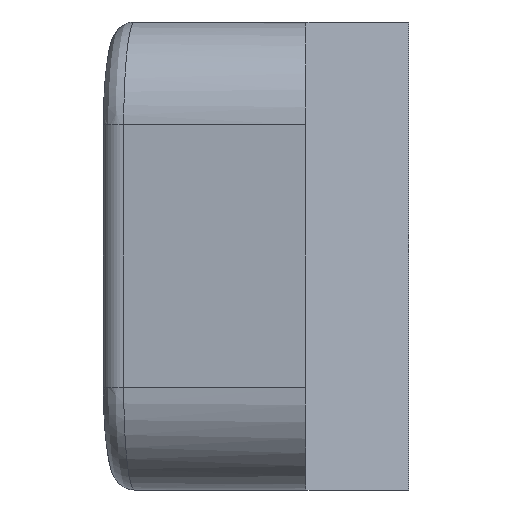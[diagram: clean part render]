
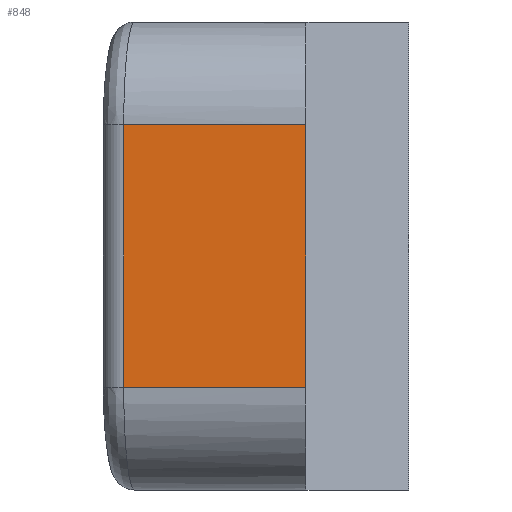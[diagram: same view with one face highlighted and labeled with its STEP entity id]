
A CAD part, left-side view. The second image highlights one B-rep face of the part: STEP entity #848.
In plain terms, the highlighted planar face has unit normal (-1, 0, 0).
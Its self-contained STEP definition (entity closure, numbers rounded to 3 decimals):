
#9 = CARTESIAN_POINT ( 'NONE',  ( 0., 0., 35.5 ) ) ;
#45 = LINE ( 'NONE', #313, #737 ) ;
#61 = DIRECTION ( 'NONE',  ( 0., 0., -1. ) ) ;
#108 = VECTOR ( 'NONE', #801, 1000. ) ;
#147 = ORIENTED_EDGE ( 'NONE', *, *, #582, .T. ) ;
#161 = CARTESIAN_POINT ( 'NONE',  ( 0., 17.72, 35.5 ) ) ;
#313 = CARTESIAN_POINT ( 'NONE',  ( 0., 0., 10. ) ) ;
#402 = EDGE_CURVE ( 'NONE', #861, #1077, #1093, .T. ) ;
#407 = DIRECTION ( 'NONE',  ( 0., -1., 0. ) ) ;
#428 = VECTOR ( 'NONE', #61, 1000. ) ;
#434 = EDGE_LOOP ( 'NONE', ( #1165, #147, #707, #1107 ) ) ;
#438 = FACE_OUTER_BOUND ( 'NONE', #434, .T. ) ;
#517 = LINE ( 'NONE', #873, #428 ) ;
#582 = EDGE_CURVE ( 'NONE', #1077, #885, #517, .T. ) ;
#636 = CARTESIAN_POINT ( 'NONE',  ( 0., 17.72, 10. ) ) ;
#662 = AXIS2_PLACEMENT_3D ( 'NONE', #1150, #706, #968 ) ;
#666 = CARTESIAN_POINT ( 'NONE',  ( 0., 0., 35.5 ) ) ;
#694 = LINE ( 'NONE', #781, #108 ) ;
#706 = DIRECTION ( 'NONE',  ( 1., 0., 0. ) ) ;
#707 = ORIENTED_EDGE ( 'NONE', *, *, #1027, .T. ) ;
#737 = VECTOR ( 'NONE', #407, 1000. ) ;
#781 = CARTESIAN_POINT ( 'NONE',  ( 0., 0., 45.5 ) ) ;
#796 = PLANE ( 'NONE',  #662 ) ;
#801 = DIRECTION ( 'NONE',  ( 0., 0., -1. ) ) ;
#848 = ADVANCED_FACE ( 'NONE', ( #438 ), #796, .F. ) ;
#861 = VERTEX_POINT ( 'NONE', #9 ) ;
#873 = CARTESIAN_POINT ( 'NONE',  ( 0., 17.72, 45.5 ) ) ;
#885 = VERTEX_POINT ( 'NONE', #636 ) ;
#887 = VECTOR ( 'NONE', #1108, 1000. ) ;
#893 = VERTEX_POINT ( 'NONE', #1102 ) ;
#968 = DIRECTION ( 'NONE',  ( 0., 1., 0. ) ) ;
#1027 = EDGE_CURVE ( 'NONE', #885, #893, #45, .T. ) ;
#1042 = EDGE_CURVE ( 'NONE', #861, #893, #694, .T. ) ;
#1077 = VERTEX_POINT ( 'NONE', #161 ) ;
#1093 = LINE ( 'NONE', #666, #887 ) ;
#1102 = CARTESIAN_POINT ( 'NONE',  ( 0., 0., 10. ) ) ;
#1107 = ORIENTED_EDGE ( 'NONE', *, *, #1042, .F. ) ;
#1108 = DIRECTION ( 'NONE',  ( 0., 1., 0. ) ) ;
#1150 = CARTESIAN_POINT ( 'NONE',  ( 0., 0., 45.5 ) ) ;
#1165 = ORIENTED_EDGE ( 'NONE', *, *, #402, .T. ) ;
